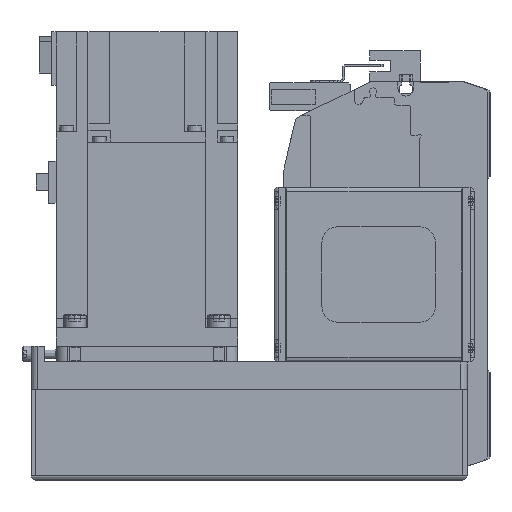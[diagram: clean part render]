
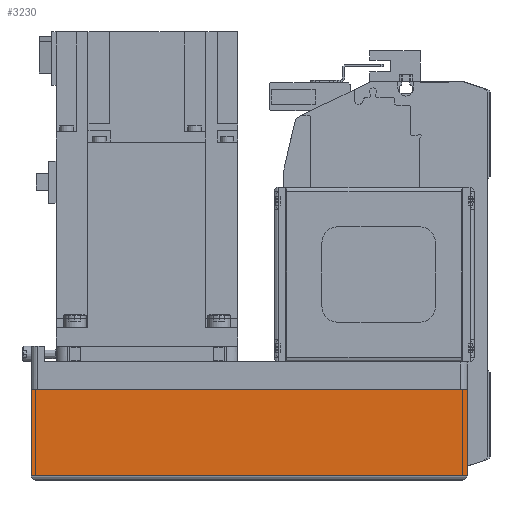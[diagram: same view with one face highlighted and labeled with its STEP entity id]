
A CAD part, left-side view. The second image highlights one B-rep face of the part: STEP entity #3230.
In plain terms, the highlighted planar face has unit normal (-1, 0, 0) as drawn and (0, -1, 0) by its records, which use the part's own axes.
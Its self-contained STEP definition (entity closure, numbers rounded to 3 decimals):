
#3230 = ADVANCED_FACE( '', ( #6843 ), #6844, .T. );
#6843 = FACE_OUTER_BOUND( '', #10647, .T. );
#6844 = PLANE( '', #10648 );
#10647 = EDGE_LOOP( '', ( #19735, #19736, #19737, #19738 ) );
#10648 = AXIS2_PLACEMENT_3D( '', #19739, #19740, #19741 );
#19735 = ORIENTED_EDGE( '', *, *, #24774, .F. );
#19736 = ORIENTED_EDGE( '', *, *, #24828, .F. );
#19737 = ORIENTED_EDGE( '', *, *, #21624, .T. );
#19738 = ORIENTED_EDGE( '', *, *, #21710, .T. );
#19739 = CARTESIAN_POINT( '', ( -192., -40., -12.1 ) );
#19740 = DIRECTION( '', ( 0., -1., 0. ) );
#19741 = DIRECTION( '', ( 0., 0., -1. ) );
#21624 = EDGE_CURVE( '', #25822, #25820, #25823, .T. );
#21710 = EDGE_CURVE( '', #25820, #25967, #25969, .T. );
#24774 = EDGE_CURVE( '', #28173, #25967, #30507, .T. );
#24828 = EDGE_CURVE( '', #25822, #28173, #30566, .T. );
#25820 = VERTEX_POINT( '', #31935 );
#25822 = VERTEX_POINT( '', #31938 );
#25823 = LINE( '', #31939, #31940 );
#25967 = VERTEX_POINT( '', #32179 );
#25969 = LINE( '', #32181, #32182 );
#28173 = VERTEX_POINT( '', #35807 );
#30507 = LINE( '', #39501, #39502 );
#30566 = LINE( '', #39582, #39583 );
#31935 = CARTESIAN_POINT( '', ( -192., -40., -50. ) );
#31938 = CARTESIAN_POINT( '', ( -192., -40., -12.1 ) );
#31939 = CARTESIAN_POINT( '', ( -192., -40., -12.1 ) );
#31940 = VECTOR( '', #40519, 1000. );
#32179 = CARTESIAN_POINT( '', ( 0., -40., -50. ) );
#32181 = CARTESIAN_POINT( '', ( -192., -40., -50. ) );
#32182 = VECTOR( '', #40617, 1000. );
#35807 = CARTESIAN_POINT( '', ( 0., -40., -12.1 ) );
#39501 = CARTESIAN_POINT( '', ( 0., -40., -12.1 ) );
#39502 = VECTOR( '', #44139, 1000. );
#39582 = CARTESIAN_POINT( '', ( -192., -40., -12.1 ) );
#39583 = VECTOR( '', #44178, 1000. );
#40519 = DIRECTION( '', ( 0., 0., -1. ) );
#40617 = DIRECTION( '', ( 1., 0., 0. ) );
#44139 = DIRECTION( '', ( 0., 0., -1. ) );
#44178 = DIRECTION( '', ( 1., 0., 0. ) );
